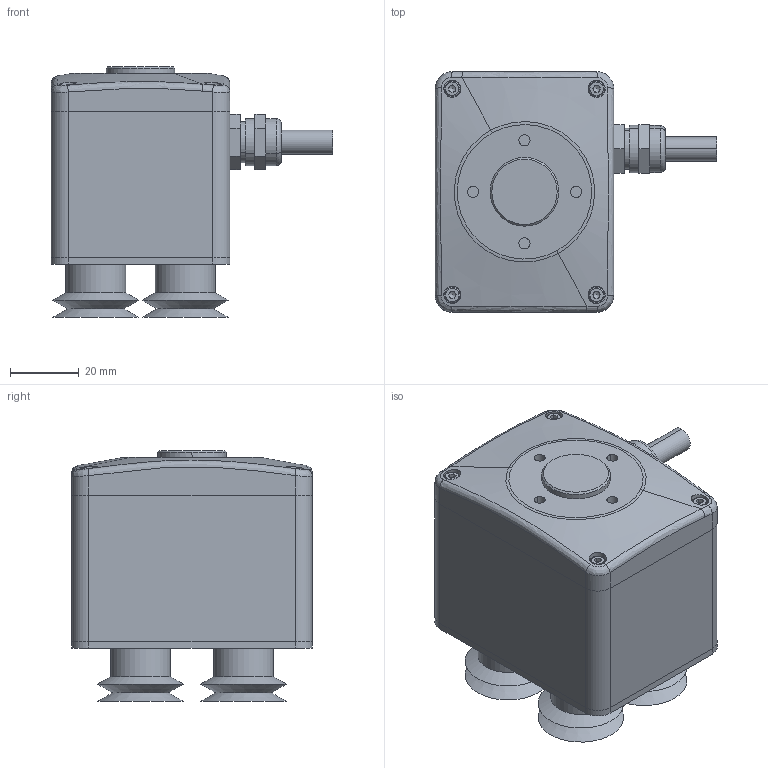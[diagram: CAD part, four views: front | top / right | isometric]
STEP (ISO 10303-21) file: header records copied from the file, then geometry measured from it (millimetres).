
FILE_DESCRIPTION (( 'STEP AP203' ), '1' );
FILE_NAME ('Z-ESC-70-4-LM.STEP', '2023-02-02T08:12:12', ( '' ), ( '' ), 'SwSTEP 2.0', 'SolidWorks 2018', '' );
FILE_SCHEMA (( 'CONFIG_CONTROL_DESIGN' ));
Length unit declared in the file: millimetre
Products named in the file (10): S.00.1019010000201-V1.0^Z-ESC-70-1-LM(2)_Z-ESC-70-1-LM; S.00.1019010000300-V1.0^Z-ESC-70-1-LM(2)_Z-ESC-70-1-LM; xipanzuo^Z-ESC-70-1-LM(2)_Z-ESC-70-1-LM; Part35^Z-ESC-70-1-LM(2)_Z-ESC-70-1-LM; Z-ESC-70-4-LM; hexagon socket head cap screws gb_GB_FASTENER_SCREWS_HSHCS M2.5X6-N; 5A0002-CNC2001-000^Z-ESC-70-1-LM(2)_Z-ESC-70-1-LM; cross recessed small pan head screws gb_GB_CROSS_SCREWS_TYPE3 M2.5X6-6-N; hexagon socket head cap screws gb_GB_FASTENER_SCREWS_HSHCS M3X6-N; 淩諾柲攫PJG-25
Assembly tree (27 placements, depth 2):
  Z-ESC-70-4-LM
    S.00.1019010000201-V1.0^Z-ESC-70-1-LM(2)_Z-ESC-70-1-LM
    S.00.1019010000300-V1.0^Z-ESC-70-1-LM(2)_Z-ESC-70-1-LM
    Part35^Z-ESC-70-1-LM(2)_Z-ESC-70-1-LM
    5A0002-CNC2001-000^Z-ESC-70-1-LM(2)_Z-ESC-70-1-LM
    淩諾柲攫PJG-25  x4
    hexagon socket head cap screws gb_GB_FASTENER_SCREWS_HSHCS M2.5X6-N  x10
    cross recessed small pan head screws gb_GB_CROSS_SCREWS_TYPE3 M2.5X6-6-N  x4
    hexagon socket head cap screws gb_GB_FASTENER_SCREWS_HSHCS M3X6-N
    xipanzuo^Z-ESC-70-1-LM(2)_Z-ESC-70-1-LM  x4
Bounding box: 82 x 70 x 73 mm (x, y, z)
Volume: 73445.6 mm3; surface area: 62332.2 mm2
Topology: 27 solids, 27 shells, 813 faces, 1914 edges, 1219 vertices
Faces by surface type: plane 422, cylinder 298, cone 64, torus 15, bspline 10, sphere 4
Full cylindrical faces by diameter (mm): 2.5 x14, 3 x1, 4.5 x14, 4.6 x4, 5.5 x1, 10.8 x4, 17.5 x4
Entity records: 18759 total; most frequent: CARTESIAN_POINT 5409, DIRECTION 2531, ORIENTED_EDGE 2366, EDGE_CURVE 1183, AXIS2_PLACEMENT_3D 975, VERTEX_POINT 779, EDGE_LOOP 612, LINE 581
